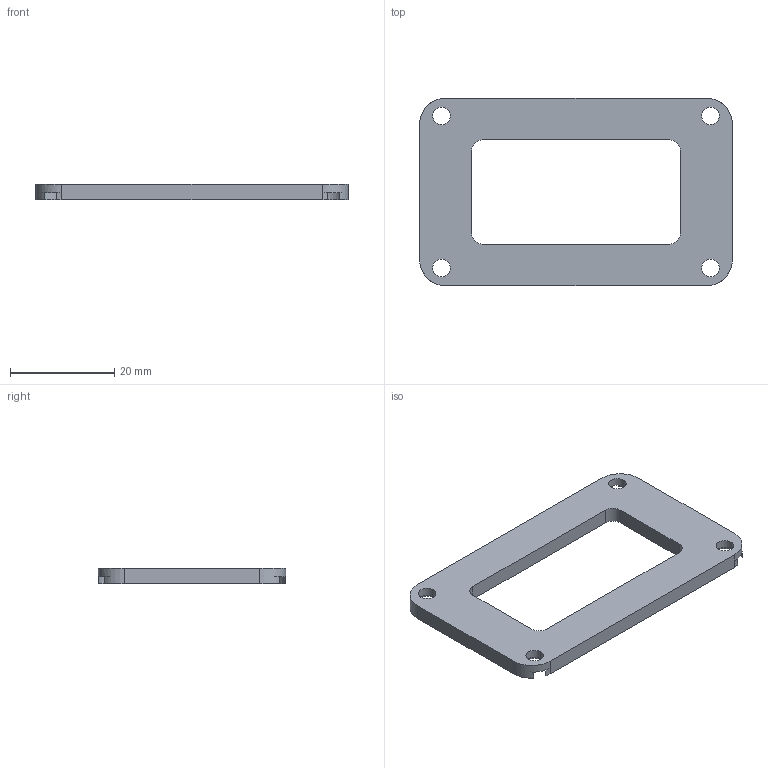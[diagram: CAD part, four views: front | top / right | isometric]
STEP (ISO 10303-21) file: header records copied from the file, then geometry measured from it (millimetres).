
FILE_DESCRIPTION(/* description */ ('Removable lower servo retaining frame; open centre preserves underside connector access. Clamp fit and connector clearance need physical verification.'),/* implementation_level */ '2;1');
FILE_NAME(/* name */ '04b Servo retaining frame.step',/* time_stamp */ '2026-10-02T18:55:16+01:00',/* author */ (''),/* organization */ (''),/* preprocessor_version */ 'ST-DEVELOPER v20.2',/* originating_system */ 'Autodesk Translation Framework v15.15.0.0',/* authorisation */ '');
FILE_SCHEMA (('AUTOMOTIVE_DESIGN { 1 0 10303 214 3 1 1 }'));
Length unit declared in the file: millimetre
Products named in the file (1): 2026-10-02-18-55-15-896
Bounding box: 60 x 36 x 3 mm (x, y, z)
Volume: 3777.1 mm3; surface area: 3667 mm2
Topology: 1 solids, 1 shells, 30 faces, 84 edges, 56 vertices
Faces by surface type: cylinder 16, plane 14
Full cylindrical faces by diameter (mm): 3.4 x4
Entity records: 1048 total; most frequent: DIRECTION 186, CARTESIAN_POINT 171, ORIENTED_EDGE 168, EDGE_CURVE 84, AXIS2_PLACEMENT_3D 71, VERTEX_POINT 56, LINE 44, VECTOR 44
